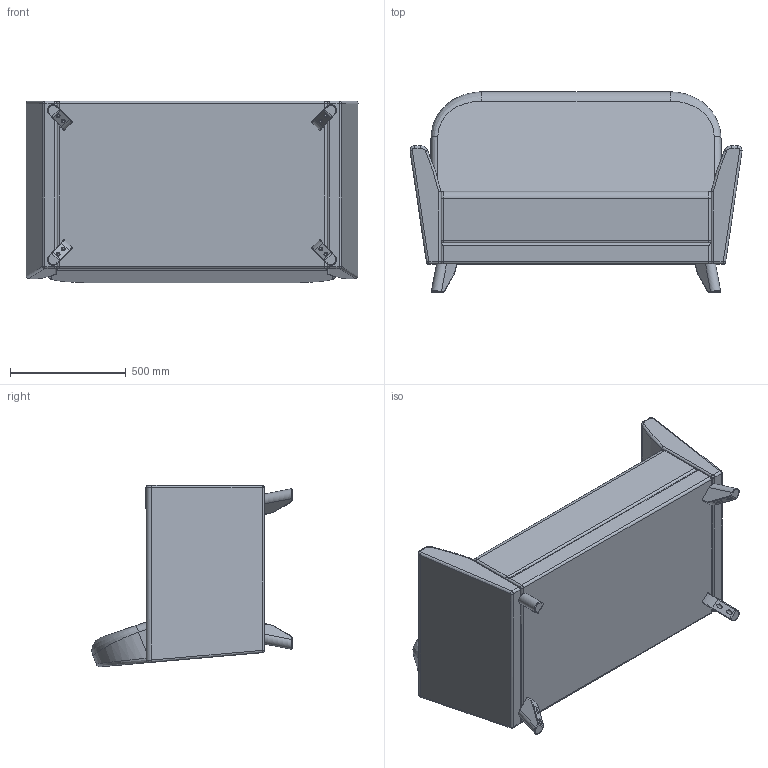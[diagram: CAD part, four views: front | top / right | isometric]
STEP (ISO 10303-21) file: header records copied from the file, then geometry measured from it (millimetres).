
FILE_DESCRIPTION(/* description */ ('2-SEATER'),/* implementation_level */ '2;1');
FILE_NAME(/* name */ 'Henley 2-Seater - STEP (Simplified).stp',/* time_stamp */ '2026-05-13T11:02:17+03:00',/* author */ ('Brian.Thangei'),/* organization */ (''),/* preprocessor_version */ 'ST-DEVELOPER v20',/* originating_system */ 'Autodesk Inventor 2025',/* authorisation */ '');
FILE_SCHEMA (('AUTOMOTIVE_DESIGN { 1 0 10303 214 3 1 1 }'));
Length unit declared in the file: millimetre
Products named in the file (1): Henley 2-Seater_2-Tone (Simplified)
Bounding box: 1431.62 x 863.05 x 782.89 mm (x, y, z)
Volume: 369944352.4 mm3; surface area: 8209319.4 mm2
Topology: 9 solids, 9 shells, 217 faces, 493 edges, 288 vertices
Faces by surface type: cylinder 84, plane 61, bspline 40, torus 18, sphere 14
Full cylindrical faces by diameter (mm): 10 x8, 16 x8
Entity records: 13286 total; most frequent: CARTESIAN_POINT 8637, ORIENTED_EDGE 958, DIRECTION 931, EDGE_CURVE 479, AXIS2_PLACEMENT_3D 370, VERTEX_POINT 288, EDGE_LOOP 241, FACE_OUTER_BOUND 217
